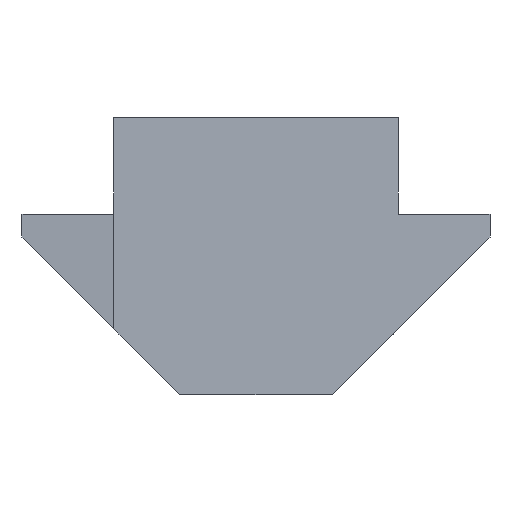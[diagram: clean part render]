
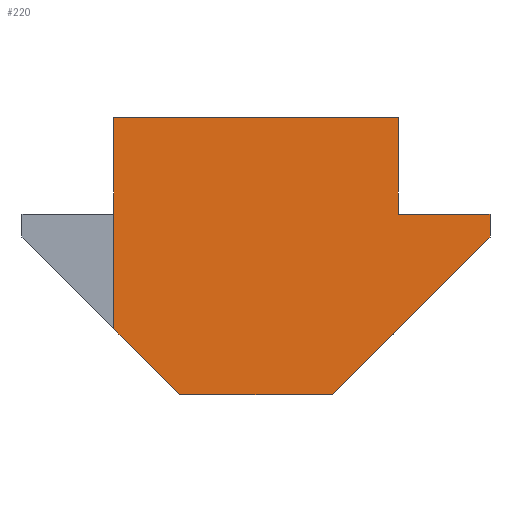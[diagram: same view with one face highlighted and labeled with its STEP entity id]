
A CAD part, front view. The second image highlights one B-rep face of the part: STEP entity #220.
In plain terms, the highlighted planar face has unit normal (0.707, -0.707, 0).
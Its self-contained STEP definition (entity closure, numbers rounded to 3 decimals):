
#30 = DIRECTION ( 'NONE',  ( -0.707, -0.707, 0. ) ) ;
#36 = DIRECTION ( 'NONE',  ( -0.707, 0.707, 0. ) ) ;
#37 = VECTOR ( 'NONE', #169, 1000. ) ;
#46 = CARTESIAN_POINT ( 'NONE',  ( 0.229, -5.021, -10.811 ) ) ;
#56 = CARTESIAN_POINT ( 'NONE',  ( 7., 1.75, -8.3 ) ) ;
#58 = VERTEX_POINT ( 'NONE', #541 ) ;
#71 = DIRECTION ( 'NONE',  ( 0., 0., 1. ) ) ;
#78 = VERTEX_POINT ( 'NONE', #283 ) ;
#80 = CARTESIAN_POINT ( 'NONE',  ( -4.25, -9.5, -8.3 ) ) ;
#91 = LINE ( 'NONE', #56, #178 ) ;
#92 = CARTESIAN_POINT ( 'NONE',  ( 4.25, -1., -2.9 ) ) ;
#99 = DIRECTION ( 'NONE',  ( 0.707, 0.707, 0. ) ) ;
#107 = ORIENTED_EDGE ( 'NONE', *, *, #493, .F. ) ;
#108 = VECTOR ( 'NONE', #99, 1000. ) ;
#112 = CARTESIAN_POINT ( 'NONE',  ( 7., 1.75, -3.582 ) ) ;
#113 = DIRECTION ( 'NONE',  ( -0.707, -0.707, 0. ) ) ;
#118 = DIRECTION ( 'NONE',  ( -0.707, -0.707, 0. ) ) ;
#125 = CARTESIAN_POINT ( 'NONE',  ( 7., 1.75, -2.9 ) ) ;
#127 = ORIENTED_EDGE ( 'NONE', *, *, #193, .F. ) ;
#145 = CARTESIAN_POINT ( 'NONE',  ( -4.25, -9.5, 0. ) ) ;
#149 = VERTEX_POINT ( 'NONE', #112 ) ;
#155 = LINE ( 'NONE', #498, #191 ) ;
#163 = EDGE_CURVE ( 'NONE', #256, #443, #155, .T. ) ;
#169 = DIRECTION ( 'NONE',  ( 0., 0., -1. ) ) ;
#171 = CARTESIAN_POINT ( 'NONE',  ( -4.25, -9.5, -8.3 ) ) ;
#177 = CARTESIAN_POINT ( 'NONE',  ( 3.271, -1.979, -7.311 ) ) ;
#178 = VECTOR ( 'NONE', #192, 1000. ) ;
#184 = LINE ( 'NONE', #46, #353 ) ;
#191 = VECTOR ( 'NONE', #113, 1000. ) ;
#192 = DIRECTION ( 'NONE',  ( 0., 0., 1. ) ) ;
#193 = EDGE_CURVE ( 'NONE', #327, #264, #206, .T. ) ;
#195 = EDGE_LOOP ( 'NONE', ( #107, #552, #548, #513, #208, #127, #348, #369, #223 ) ) ;
#206 = LINE ( 'NONE', #459, #261 ) ;
#208 = ORIENTED_EDGE ( 'NONE', *, *, #363, .T. ) ;
#212 = CARTESIAN_POINT ( 'NONE',  ( 4.25, -1., 0. ) ) ;
#217 = LINE ( 'NONE', #171, #543 ) ;
#220 = ADVANCED_FACE ( 'NONE', ( #349 ), #469, .F. ) ;
#223 = ORIENTED_EDGE ( 'NONE', *, *, #410, .F. ) ;
#236 = VERTEX_POINT ( 'NONE', #125 ) ;
#240 = VECTOR ( 'NONE', #71, 1000. ) ;
#256 = VERTEX_POINT ( 'NONE', #212 ) ;
#259 = EDGE_CURVE ( 'NONE', #78, #443, #386, .T. ) ;
#261 = VECTOR ( 'NONE', #118, 1000. ) ;
#264 = VERTEX_POINT ( 'NONE', #429 ) ;
#269 = DIRECTION ( 'NONE',  ( 0.577, 0.577, 0.577 ) ) ;
#279 = EDGE_CURVE ( 'NONE', #58, #78, #217, .T. ) ;
#283 = CARTESIAN_POINT ( 'NONE',  ( -4.25, -9.5, -2.9 ) ) ;
#327 = VERTEX_POINT ( 'NONE', #390 ) ;
#347 = DIRECTION ( 'NONE',  ( 0., 0., 1. ) ) ;
#348 = ORIENTED_EDGE ( 'NONE', *, *, #471, .T. ) ;
#349 = FACE_OUTER_BOUND ( 'NONE', #195, .T. ) ;
#353 = VECTOR ( 'NONE', #526, 1000. ) ;
#363 = EDGE_CURVE ( 'NONE', #58, #264, #184, .T. ) ;
#369 = ORIENTED_EDGE ( 'NONE', *, *, #449, .T. ) ;
#386 = LINE ( 'NONE', #80, #240 ) ;
#390 = CARTESIAN_POINT ( 'NONE',  ( 2.282, -2.968, -8.3 ) ) ;
#410 = EDGE_CURVE ( 'NONE', #555, #236, #486, .T. ) ;
#419 = LINE ( 'NONE', #424, #37 ) ;
#420 = VECTOR ( 'NONE', #269, 1000. ) ;
#424 = CARTESIAN_POINT ( 'NONE',  ( 4.25, -1., -8.3 ) ) ;
#429 = CARTESIAN_POINT ( 'NONE',  ( -2.282, -7.532, -8.3 ) ) ;
#441 = CARTESIAN_POINT ( 'NONE',  ( 7., 1.75, -2.9 ) ) ;
#443 = VERTEX_POINT ( 'NONE', #145 ) ;
#449 = EDGE_CURVE ( 'NONE', #149, #236, #91, .T. ) ;
#459 = CARTESIAN_POINT ( 'NONE',  ( 7., 1.75, -8.3 ) ) ;
#467 = CARTESIAN_POINT ( 'NONE',  ( 7., 1.75, -8.3 ) ) ;
#469 = PLANE ( 'NONE',  #485 ) ;
#471 = EDGE_CURVE ( 'NONE', #327, #149, #556, .T. ) ;
#485 = AXIS2_PLACEMENT_3D ( 'NONE', #467, #36, #30 ) ;
#486 = LINE ( 'NONE', #441, #108 ) ;
#493 = EDGE_CURVE ( 'NONE', #256, #555, #419, .T. ) ;
#498 = CARTESIAN_POINT ( 'NONE',  ( 7., 1.75, 0. ) ) ;
#513 = ORIENTED_EDGE ( 'NONE', *, *, #279, .F. ) ;
#526 = DIRECTION ( 'NONE',  ( 0.577, 0.577, -0.577 ) ) ;
#541 = CARTESIAN_POINT ( 'NONE',  ( -4.25, -9.5, -6.332 ) ) ;
#543 = VECTOR ( 'NONE', #347, 1000. ) ;
#548 = ORIENTED_EDGE ( 'NONE', *, *, #259, .F. ) ;
#552 = ORIENTED_EDGE ( 'NONE', *, *, #163, .T. ) ;
#555 = VERTEX_POINT ( 'NONE', #92 ) ;
#556 = LINE ( 'NONE', #177, #420 ) ;
